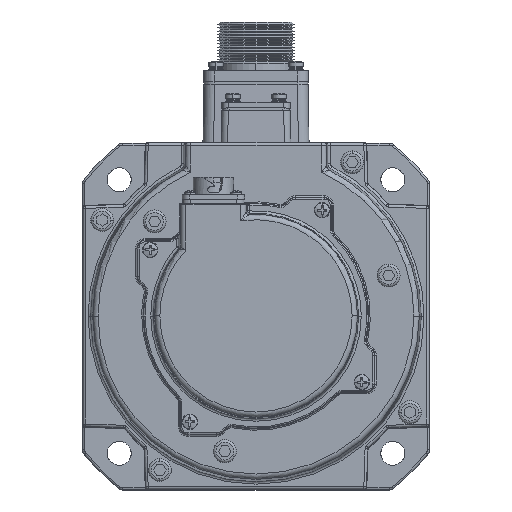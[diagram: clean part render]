
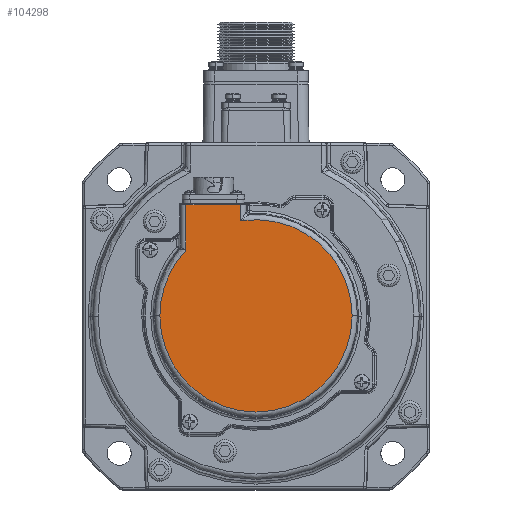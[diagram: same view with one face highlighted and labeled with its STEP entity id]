
A CAD part, top view. The second image highlights one B-rep face of the part: STEP entity #104298.
In plain terms, the highlighted planar face has unit normal (0, 0, 1).
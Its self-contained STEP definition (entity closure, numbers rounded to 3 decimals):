
#1647 = CIRCLE ( 'NONE', #46605, 36.035 ) ;
#2494 = VERTEX_POINT ( 'NONE', #74710 ) ;
#2691 = FACE_OUTER_BOUND ( 'NONE', #19973, .T. ) ;
#5542 = CARTESIAN_POINT ( 'NONE',  ( -8.872, -56.273, -4.537 ) ) ;
#9120 = CARTESIAN_POINT ( 'NONE',  ( -8.872, -56.273, -4.537 ) ) ;
#10106 = EDGE_CURVE ( 'NONE', #99844, #97227, #35879, .T. ) ;
#10612 = CARTESIAN_POINT ( 'NONE',  ( -8.872, -56.273, -4.537 ) ) ;
#11727 = CARTESIAN_POINT ( 'NONE',  ( -35.157, -31.624, -4.537 ) ) ;
#14450 = DIRECTION ( 'NONE',  ( -1., 0., 0. ) ) ;
#14624 = DIRECTION ( 'NONE',  ( 0., 1., 0. ) ) ;
#16656 = LINE ( 'NONE', #38087, #105393 ) ;
#18005 = DIRECTION ( 'NONE',  ( -1., 0., 0. ) ) ;
#19517 = DIRECTION ( 'NONE',  ( -1., 0., 0. ) ) ;
#19973 = EDGE_LOOP ( 'NONE', ( #81901, #30855, #84200, #73171, #109637, #85627 ) ) ;
#20451 = AXIS2_PLACEMENT_3D ( 'NONE', #113550, #105062, #51993 ) ;
#27221 = CIRCLE ( 'NONE', #108706, 36.035 ) ;
#30855 = ORIENTED_EDGE ( 'NONE', *, *, #91607, .T. ) ;
#33246 = EDGE_CURVE ( 'NONE', #51369, #2494, #27221, .T. ) ;
#34143 = PLANE ( 'NONE',  #20451 ) ;
#35879 = LINE ( 'NONE', #44082, #62285 ) ;
#38087 = CARTESIAN_POINT ( 'NONE',  ( -8.872, -14.523, -4.537 ) ) ;
#40965 = CARTESIAN_POINT ( 'NONE',  ( -14.587, -56.273, -4.537 ) ) ;
#41718 = VERTEX_POINT ( 'NONE', #105798 ) ;
#44082 = CARTESIAN_POINT ( 'NONE',  ( -35.157, -56.273, -4.537 ) ) ;
#45531 = AXIS2_PLACEMENT_3D ( 'NONE', #9120, #71135, #18005 ) ;
#46605 = AXIS2_PLACEMENT_3D ( 'NONE', #5542, #67543, #14450 ) ;
#46698 = VECTOR ( 'NONE', #14624, 1000. ) ;
#51369 = VERTEX_POINT ( 'NONE', #75516 ) ;
#51993 = DIRECTION ( 'NONE',  ( -1., 0., 0. ) ) ;
#59861 = EDGE_CURVE ( 'NONE', #110683, #51369, #1647, .T. ) ;
#62285 = VECTOR ( 'NONE', #106077, 1000. ) ;
#66377 = CARTESIAN_POINT ( 'NONE',  ( -44.907, -56.273, -4.537 ) ) ;
#67543 = DIRECTION ( 'NONE',  ( 0., 0., 1. ) ) ;
#68070 = EDGE_CURVE ( 'NONE', #2494, #41718, #111810, .T. ) ;
#71135 = DIRECTION ( 'NONE',  ( 0., 0., 1. ) ) ;
#72649 = DIRECTION ( 'NONE',  ( 0., 0., 1. ) ) ;
#73171 = ORIENTED_EDGE ( 'NONE', *, *, #78413, .T. ) ;
#74710 = CARTESIAN_POINT ( 'NONE',  ( -14.587, -20.695, -4.537 ) ) ;
#75516 = CARTESIAN_POINT ( 'NONE',  ( 27.163, -56.273, -4.537 ) ) ;
#78413 = EDGE_CURVE ( 'NONE', #97227, #110683, #97262, .T. ) ;
#81901 = ORIENTED_EDGE ( 'NONE', *, *, #68070, .T. ) ;
#84200 = ORIENTED_EDGE ( 'NONE', *, *, #10106, .T. ) ;
#85627 = ORIENTED_EDGE ( 'NONE', *, *, #33246, .T. ) ;
#91139 = DIRECTION ( 'NONE',  ( -1., 0., 0. ) ) ;
#91607 = EDGE_CURVE ( 'NONE', #41718, #99844, #16656, .T. ) ;
#97227 = VERTEX_POINT ( 'NONE', #11727 ) ;
#97262 = CIRCLE ( 'NONE', #45531, 36.035 ) ;
#99844 = VERTEX_POINT ( 'NONE', #109699 ) ;
#104298 = ADVANCED_FACE ( 'NONE', ( #2691 ), #34143, .T. ) ;
#105062 = DIRECTION ( 'NONE',  ( 0., 0., 1. ) ) ;
#105393 = VECTOR ( 'NONE', #91139, 1000. ) ;
#105798 = CARTESIAN_POINT ( 'NONE',  ( -14.587, -14.523, -4.537 ) ) ;
#106077 = DIRECTION ( 'NONE',  ( 0., -1., 0. ) ) ;
#108706 = AXIS2_PLACEMENT_3D ( 'NONE', #10612, #72649, #19517 ) ;
#109637 = ORIENTED_EDGE ( 'NONE', *, *, #59861, .T. ) ;
#109699 = CARTESIAN_POINT ( 'NONE',  ( -35.157, -14.523, -4.537 ) ) ;
#110683 = VERTEX_POINT ( 'NONE', #66377 ) ;
#111810 = LINE ( 'NONE', #40965, #46698 ) ;
#113550 = CARTESIAN_POINT ( 'NONE',  ( -8.872, -56.273, -4.537 ) ) ;
